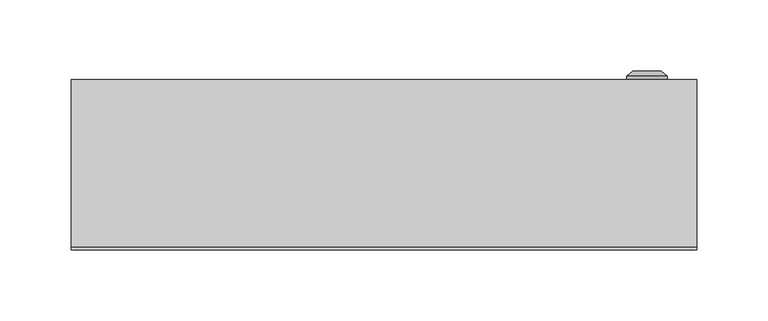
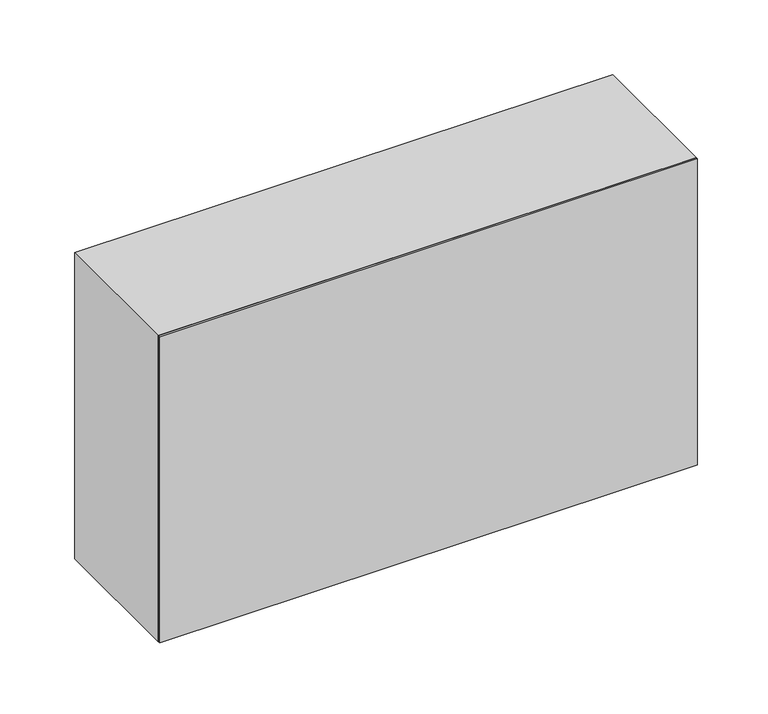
"""IFC4 building model written with IfcOpenShell, lengths in millimetres: proxy geometry, ЩРН_18М : ЩРН-18М."""

from ifc_helpers import new_model, si_unit, frame, origin, origin_with_axes, place, context, project, spatial, polyline, circle_curve, outline, extrude, source, transform, mapped, element, save
from ifc_brep_helpers import plane_surface, cylinder_surface, revolved_surface, advanced_brep


def electrical_equipment_db30c34b(model_context):
    return source(origin(), model_context, "Body", "SolidModel", [
        advanced_brep(
        [(170.669873, 120.0, 127.5), (199.330127, 120.0, 127.5), (185.0, 120.0, 127.5), (170.669873, 122.366592, 127.5), (199.330127, 122.366592, 127.5), (175.0, 126.0, 127.5), (195.0, 126.0, 127.5), (183.1080471, 126.0, 127.5), (186.8919529, 126.0, 127.5), (183.1080471, 124.9822294, 127.5), (186.8919529, 124.9822294, 127.5), (185.0, 124.9822294, 127.5)],
        [
            (0, 1, circle_curve(frame((185.0, 120.0, 127.5), z_axis=(0.0, -1.0, 0.0), x_axis=(1.0, 0.0, 0.0)), 14.330127)),
            (1, 2),
            (2, 0),
            (1, 0, circle_curve(frame((185.0, 120.0, 127.5), z_axis=(0.0, -1.0, 0.0), x_axis=(1.0, 0.0, 0.0)), 14.330127)),
            (3, 4, circle_curve(frame((185.0, 122.366592, 127.5), z_axis=(0.0, -1.0, 0.0), x_axis=(1.0, 0.0, 0.0)), 14.330127)),
            (4, 1),
            (0, 3),
            (4, 3, circle_curve(frame((185.0, 122.366592, 127.5), z_axis=(0.0, -1.0, 0.0), x_axis=(1.0, 0.0, 0.0)), 14.330127)),
            (5, 6, circle_curve(frame((185.0, 126.0, 127.5), z_axis=(0.0, -1.0, 0.0), x_axis=(1.0, 0.0, 0.0)), 10.0)),
            (6, 4),
            (3, 5),
            (6, 5, circle_curve(frame((185.0, 126.0, 127.5), z_axis=(0.0, -1.0, 0.0), x_axis=(1.0, 0.0, 0.0)), 10.0)),
            (7, 8, circle_curve(frame((185.0, 126.0, 127.5), z_axis=(0.0, -1.0, 0.0), x_axis=(1.0, 0.0, 0.0)), 1.8919529)),
            (8, 6),
            (5, 7),
            (8, 7, circle_curve(frame((185.0, 126.0, 127.5), z_axis=(0.0, -1.0, 0.0), x_axis=(1.0, 0.0, 0.0)), 1.8919529)),
            (9, 10, circle_curve(frame((185.0, 124.9822294, 127.5), z_axis=(0.0, -1.0, 0.0), x_axis=(1.0, 0.0, 0.0)), 1.8919529)),
            (10, 8),
            (7, 9),
            (10, 9, circle_curve(frame((185.0, 124.9822294, 127.5), z_axis=(0.0, -1.0, 0.0), x_axis=(1.0, 0.0, 0.0)), 1.8919529)),
            (11, 10),
            (9, 11),
        ],
        [
            plane_surface(frame((185.0, 120.0, 127.5), z_axis=(0.0, -1.0, 0.0), x_axis=(1.0, 0.0, 0.0))),
            cylinder_surface(frame((185.0, 133.1348851, 127.5), z_axis=(0.0, 1.0, 0.0), x_axis=(1.0, 0.0, 0.0)), 14.330127),
            revolved_surface(polyline([(199.330127, 122.366592, 127.5), (195.0, 126.0, 127.5)]), (185.0, 133.1348851, 127.5), (0.0, 1.0, 0.0)),
            plane_surface(frame((185.0, 126.0, 127.5), z_axis=(0.0, 1.0, 0.0), x_axis=(1.0, 0.0, 0.0))),
            revolved_surface(polyline([(186.8919529, 126.0, 127.5), (186.8919529, 124.9822294, 127.5)]), (185.0, 133.1348851, 127.5), (0.0, 1.0, 0.0)),
            plane_surface(frame((185.0, 124.9822294, 127.5), z_axis=(0.0, 1.0, 0.0), x_axis=(1.0, 0.0, 0.0))),
        ],
        [
            (0, [[1, 2, 3]]),
            (0, [[4, -3, -2]]),
            (1, [[5, 6, -1, 7]]),
            (1, [[8, -7, -4, -6]]),
            (2, [[9, 10, -5, 11]]),
            (2, [[12, -11, -8, -10]]),
            (3, [[13, 14, -9, 15]]),
            (3, [[16, -15, -12, -14]]),
            (4, [[17, 18, -13, 19]]),
            (4, [[20, -19, -16, -18]]),
            (5, [[21, -17, 22]]),
            (5, [[-22, -20, -21]]),
        ],
    ),
        extrude(outline(polyline([(214.0, 95.0), (-214.0, 95.0), (-214.0, 120.0), (214.0, 120.0), (214.0, 95.0)])), frame((0.0, 0.0, 6.0), z_axis=(0.0, 0.0, 1.0), x_axis=(1.0, 0.0, 0.0)), (0.0, 0.0, 1.0), 253.0),
        extrude(outline(polyline([(265.0, -220.0033905), (0.0, -220.0033905), (0.0, 219.9966095), (265.0, 219.9966095), (265.0, -220.0033905)]), holes=[polyline([(260.0, -215.0), (260.0, 215.0), (5.0, 215.0), (5.0, -215.0), (260.0, -215.0)])]), frame((0.0, 2.0, 0.0), z_axis=(0.0, 1.0, 0.0), x_axis=(0.0, 0.0, 1.0)), (0.0, 0.0, 1.0), 118.0),
        extrude(outline(polyline([(220.0, 0.0), (-220.0, 0.0), (-220.0, 2.0), (220.0, 2.0), (220.0, 0.0)])), origin_with_axes(), (0.0, 0.0, 1.0), 265.0),
    ])


if __name__ == "__main__":
    model = new_model("IFC4")
    model_context = context("Model", 3, world=origin())
    ifc_project = project(units=[si_unit("LENGTHUNIT", "METRE", prefix="MILLI")], contexts=[model_context])
    site = spatial("IfcSite", under=ifc_project)
    building = spatial("IfcBuilding", under=site)
    placement = place(None, origin())
    electrical_equipment_shape = electrical_equipment_db30c34b(model_context)
    element("IfcBuildingElementProxy", 1, Name="ЩРН_18М : ЩРН-18М", ObjectType="ЩРН_18М : ЩРН-18М", at=placement, inside=building, context=model_context, shape_type="MappedRepresentation", body=[
        mapped(electrical_equipment_shape, transform((0.0, 0.0, 0.0), x_axis=(1.0, 0.0, 0.0), y_axis=(0.0, 1.0, 0.0), z_axis=(0.0, 0.0, 1.0))),
    ])
    save(model, "model.ifc")
